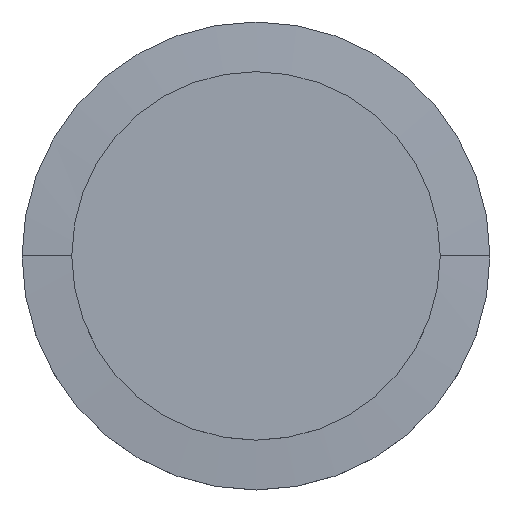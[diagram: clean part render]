
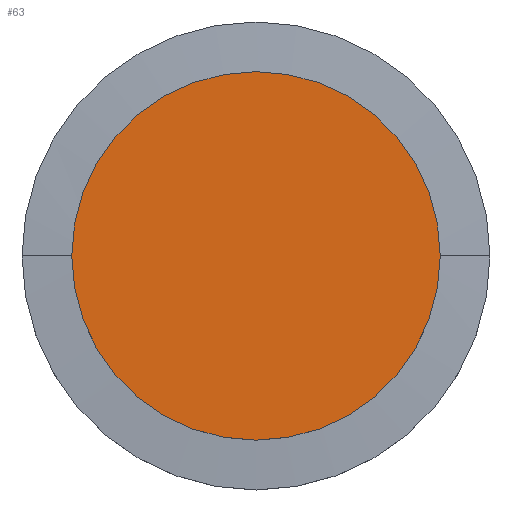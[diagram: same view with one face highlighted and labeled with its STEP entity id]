
A CAD part, top view. The second image highlights one B-rep face of the part: STEP entity #63.
In plain terms, the highlighted planar face has unit normal (0, 0, 1).
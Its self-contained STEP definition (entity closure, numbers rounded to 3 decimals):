
#63=ADVANCED_FACE('',(#83),#84,.T.);
#83=FACE_OUTER_BOUND('',#103,.T.);
#84=PLANE('',#104);
#103=EDGE_LOOP('',(#162,#163));
#104=AXIS2_PLACEMENT_3D('',#164,#165,#166);
#162=ORIENTED_EDGE('',*,*,#180,.T.);
#163=ORIENTED_EDGE('',*,*,#181,.T.);
#164=CARTESIAN_POINT('',(0.0,0.0,5.0));
#165=DIRECTION('',(0.0,0.0,1.0));
#166=DIRECTION('',(1.0,0.0,0.0));
#180=EDGE_CURVE('',#200,#204,#206,.T.);
#181=EDGE_CURVE('',#204,#200,#207,.T.);
#200=VERTEX_POINT('',#228);
#204=VERTEX_POINT('',#233);
#206=CIRCLE('',#236,10.0);
#207=CIRCLE('',#237,10.0);
#228=CARTESIAN_POINT('',(10.0,0.0,5.0));
#233=CARTESIAN_POINT('',(-10.0,0.,5.0));
#236=AXIS2_PLACEMENT_3D('',#270,#271,#272);
#237=AXIS2_PLACEMENT_3D('',#273,#274,#275);
#270=CARTESIAN_POINT('',(0.0,0.0,5.0));
#271=DIRECTION('',(0.0,0.0,1.0));
#272=DIRECTION('',(1.0,0.0,0.0));
#273=CARTESIAN_POINT('',(0.0,0.0,5.0));
#274=DIRECTION('',(0.0,0.0,1.0));
#275=DIRECTION('',(1.0,0.0,0.0));
